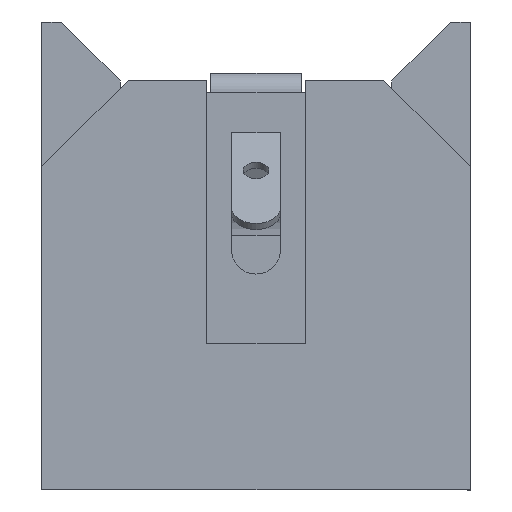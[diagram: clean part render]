
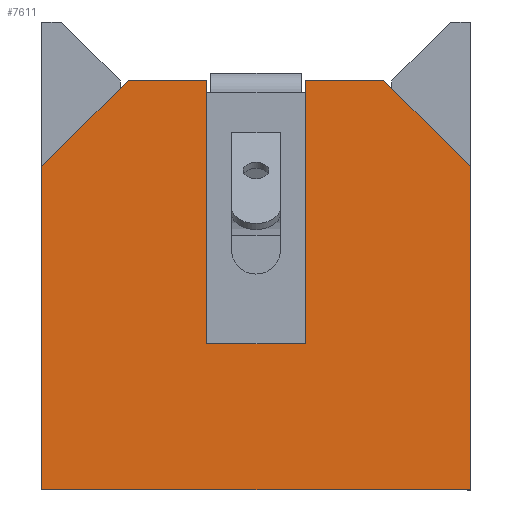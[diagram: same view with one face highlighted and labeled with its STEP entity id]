
A CAD part, left-side view. The second image highlights one B-rep face of the part: STEP entity #7611.
In plain terms, the highlighted planar face has unit normal (-1, 0, 0).
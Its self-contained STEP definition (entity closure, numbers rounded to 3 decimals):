
#652=FACE_OUTER_BOUND($,#1065,.T.);
#1065=EDGE_LOOP($,(#6321,#6322,#6323,#6324,#6325,#6326,#6327,#6328,#6329,
#6330));
#1772=LINE($,#12209,#2625);
#1806=LINE($,#12289,#2659);
#1811=LINE($,#12300,#2664);
#1849=LINE($,#12377,#2702);
#1854=LINE($,#12385,#2707);
#1856=LINE($,#12389,#2709);
#1859=LINE($,#12396,#2712);
#1861=LINE($,#12400,#2714);
#1862=LINE($,#12401,#2715);
#1863=LINE($,#12402,#2716);
#2625=VECTOR($,#9297,27.686);
#2659=VECTOR($,#9381,20.879);
#2664=VECTOR($,#9394,20.879);
#2702=VECTOR($,#9456,17.018);
#2707=VECTOR($,#9465,6.35);
#2709=VECTOR($,#9469,17.018);
#2712=VECTOR($,#9478,5.08);
#2714=VECTOR($,#9482,5.08);
#2715=VECTOR($,#9483,7.903);
#2716=VECTOR($,#9484,7.903);
#3378=VERTEX_POINT($,#12206);
#3379=VERTEX_POINT($,#12208);
#3400=VERTEX_POINT($,#12287);
#3402=VERTEX_POINT($,#12299);
#3428=VERTEX_POINT($,#12374);
#3429=VERTEX_POINT($,#12376);
#3430=VERTEX_POINT($,#12383);
#3431=VERTEX_POINT($,#12387);
#3432=VERTEX_POINT($,#12395);
#3433=VERTEX_POINT($,#12399);
#4324=EDGE_CURVE($,#3379,#3378,#1772,.T.);
#4362=EDGE_CURVE($,#3378,#3400,#1806,.T.);
#4367=EDGE_CURVE($,#3379,#3402,#1811,.T.);
#4405=EDGE_CURVE($,#3429,#3428,#1849,.T.);
#4410=EDGE_CURVE($,#3428,#3430,#1854,.T.);
#4412=EDGE_CURVE($,#3430,#3431,#1856,.T.);
#4415=EDGE_CURVE($,#3429,#3432,#1859,.T.);
#4417=EDGE_CURVE($,#3433,#3431,#1861,.T.);
#4418=EDGE_CURVE($,#3402,#3433,#1862,.T.);
#4419=EDGE_CURVE($,#3432,#3400,#1863,.T.);
#6321=ORIENTED_EDGE($,*,*,#4405,.T.);
#6322=ORIENTED_EDGE($,*,*,#4410,.T.);
#6323=ORIENTED_EDGE($,*,*,#4412,.T.);
#6324=ORIENTED_EDGE($,*,*,#4417,.F.);
#6325=ORIENTED_EDGE($,*,*,#4418,.F.);
#6326=ORIENTED_EDGE($,*,*,#4367,.F.);
#6327=ORIENTED_EDGE($,*,*,#4324,.T.);
#6328=ORIENTED_EDGE($,*,*,#4362,.T.);
#6329=ORIENTED_EDGE($,*,*,#4419,.F.);
#6330=ORIENTED_EDGE($,*,*,#4415,.F.);
#6858=PLANE($,#8005);
#7611=ADVANCED_FACE($,(#652),#6858,.T.);
#8005=AXIS2_PLACEMENT_3D($,#12398,#9480,#9481);
#9297=DIRECTION($,(0.,-1.,0.));
#9381=DIRECTION($,(0.,0.,1.));
#9394=DIRECTION($,(0.,0.,1.));
#9456=DIRECTION($,(0.,0.,-1.));
#9465=DIRECTION($,(0.,1.,0.));
#9469=DIRECTION($,(0.,0.,1.));
#9478=DIRECTION($,(0.,-1.,0.));
#9480=DIRECTION('center_axis',(-1.,0.,0.));
#9481=DIRECTION('ref_axis',(0.,-1.,0.));
#9482=DIRECTION($,(0.,-1.,0.));
#9483=DIRECTION($,(0.,-0.707,0.707));
#9484=DIRECTION($,(0.,-0.707,-0.707));
#12206=CARTESIAN_POINT('',(-37.687,-5.945,-8.039));
#12208=CARTESIAN_POINT('',(-37.687,21.741,-8.039));
#12209=CARTESIAN_POINT($,(-37.687,21.741,-8.039));
#12287=CARTESIAN_POINT('',(-37.687,-5.945,12.84));
#12289=CARTESIAN_POINT($,(-37.687,-5.945,-8.039));
#12299=CARTESIAN_POINT('',(-37.687,21.741,12.84));
#12300=CARTESIAN_POINT($,(-37.687,21.741,-8.039));
#12374=CARTESIAN_POINT('',(-37.687,4.723,1.41));
#12376=CARTESIAN_POINT('',(-37.687,4.723,18.428));
#12377=CARTESIAN_POINT($,(-37.687,4.723,5.194));
#12383=CARTESIAN_POINT('',(-37.687,11.073,1.41));
#12385=CARTESIAN_POINT($,(-37.687,14.82,1.41));
#12387=CARTESIAN_POINT('',(-37.687,11.073,18.428));
#12389=CARTESIAN_POINT($,(-37.687,11.073,5.194));
#12395=CARTESIAN_POINT('',(-37.687,-0.357,18.428));
#12396=CARTESIAN_POINT($,(-37.687,21.741,18.428));
#12398=CARTESIAN_POINT('Origin',(-37.687,21.741,-8.039));
#12399=CARTESIAN_POINT('',(-37.687,16.153,18.428));
#12400=CARTESIAN_POINT($,(-37.687,21.741,18.428));
#12401=CARTESIAN_POINT($,(-37.687,25.564,9.017));
#12402=CARTESIAN_POINT($,(-37.687,-2.846,15.938));
